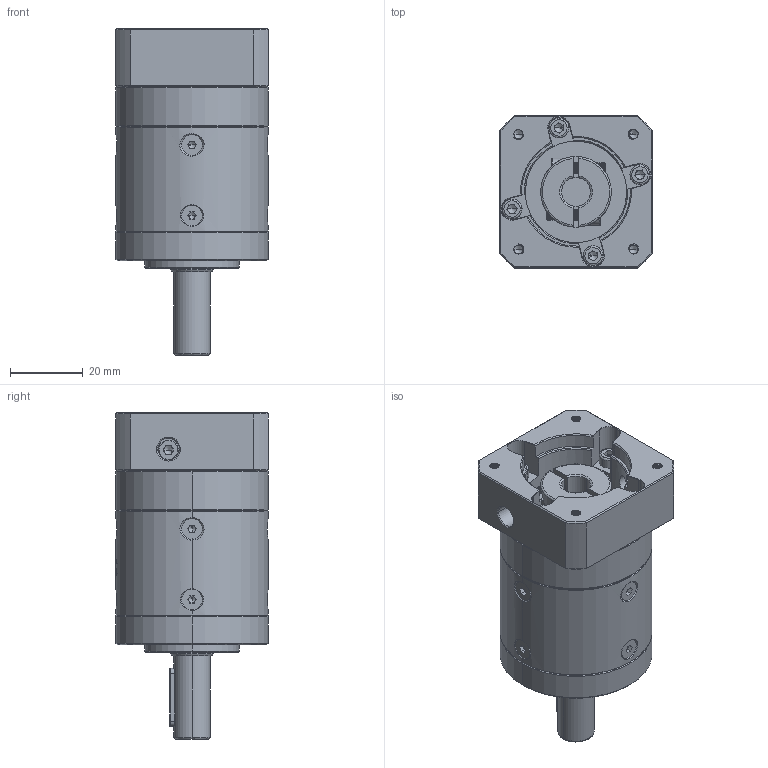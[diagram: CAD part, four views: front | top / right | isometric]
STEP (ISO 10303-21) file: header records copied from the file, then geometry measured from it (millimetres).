
FILE_DESCRIPTION (( 'STEP AP214' ), '1' );
FILE_NAME ('ZE40-L1-P2-8-30-45-M3.STEP', '2023-06-06T13:03:15', ( 'Windows 蚚誧' ), ( 'Organization' ), 'SwSTEP 2.0', 'SolidWorks 2016', '' );
FILE_SCHEMA (( 'AUTOMOTIVE_DESIGN' ));
Length unit declared in the file: millimetre
Products named in the file (1): ZE40-L1-P2-8-30-45-M3
Bounding box: 42 x 42 x 90 mm (x, y, z)
Volume: 81029 mm3; surface area: 25140.5 mm2
Topology: 14 solids, 14 shells, 2176 faces, 5752 edges, 3662 vertices
Faces by surface type: plane 938, cylinder 540, bspline 360, cone 330, torus 8
Entity records: 131831 total; most frequent: CARTESIAN_POINT 58497, ORIENTED_EDGE 11412, DIRECTION 8721, EDGE_CURVE 5706, VERTEX_POINT 3662, VECTOR 2909, LINE 2909, AXIS2_PLACEMENT_3D 2906
